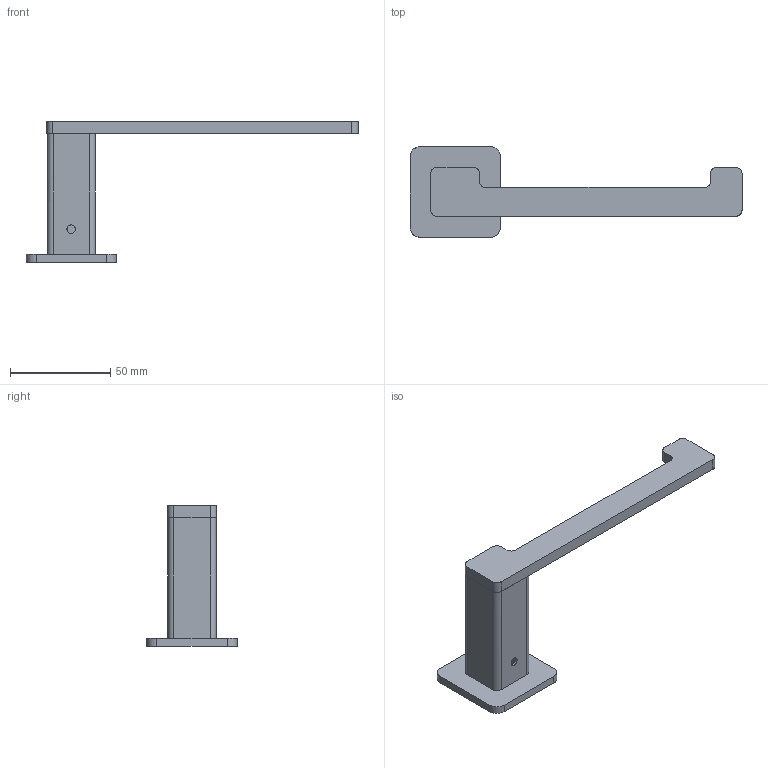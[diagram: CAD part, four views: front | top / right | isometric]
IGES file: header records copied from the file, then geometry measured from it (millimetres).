
Global section: file name: cc598619-9718-4a55-87e8-2977d42fa984.zip; native system: unknown; preprocessor: unknown; author: unknown; organization: unknown; date: 20200107.145256; units: millimetre
Bounding box: 165.35 x 45 x 70 mm (x, y, z)
Volume: 28808.8 mm3; surface area: 22936 mm2
Topology: 3 solids, 3 shells, 53 faces, 140 edges, 96 vertices
Faces by surface type: bspline 53
